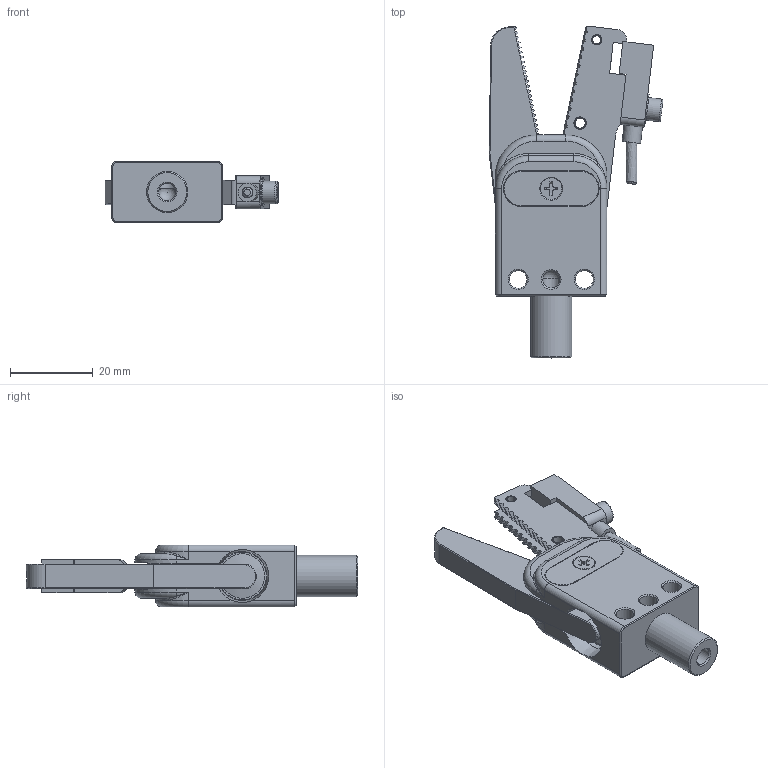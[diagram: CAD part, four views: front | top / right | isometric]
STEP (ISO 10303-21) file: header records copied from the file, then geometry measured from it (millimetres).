
FILE_DESCRIPTION(/* description */ (''),/* implementation_level */ '2;1');
FILE_NAME(/* name */ 'GR10A-12-CP.stp',/* time_stamp */ '2023-03-08T11:12:46+08:00',/* author */ (''),/* organization */ (''),/* preprocessor_version */ 'ST-DEVELOPER v16',/* originating_system */ 'SIEMENS PLM Software NX 10.0',/* authorisation */ '');
FILE_SCHEMA (('AUTOMOTIVE_DESIGN { 1 0 10303 214 3 1 1 1 }'));
Length unit declared in the file: millimetre
Products named in the file (1): Admi115498B06ilo
Bounding box: 42.07 x 80.38 x 15 mm (x, y, z)
Volume: 17567 mm3; surface area: 10824.3 mm2
Topology: 1 solids, 13 shells, 982 faces, 2455 edges, 1497 vertices
Faces by surface type: plane 769, cylinder 97, cone 54, bspline 37, torus 22, sphere 3
Full cylindrical faces by diameter (mm): 2.2 x2, 2.5 x4, 3 x6, 3.2 x1, 3.4 x1, 3.5 x1, 4.2 x2, 4.3 x3, 4.5 x1, 5.2 x1, 5.5 x1, 7 x3, 7.2 x2, 10 x1, 11.5 x2, 12 x7
Entity records: 42552 total; most frequent: CARTESIAN_POINT 13230, ORIENTED_EDGE 4684, DIRECTION 4374, EDGE_CURVE 2342, LINE 1848, VECTOR 1848, VERTEX_POINT 1463, AXIS2_PLACEMENT_3D 1263
